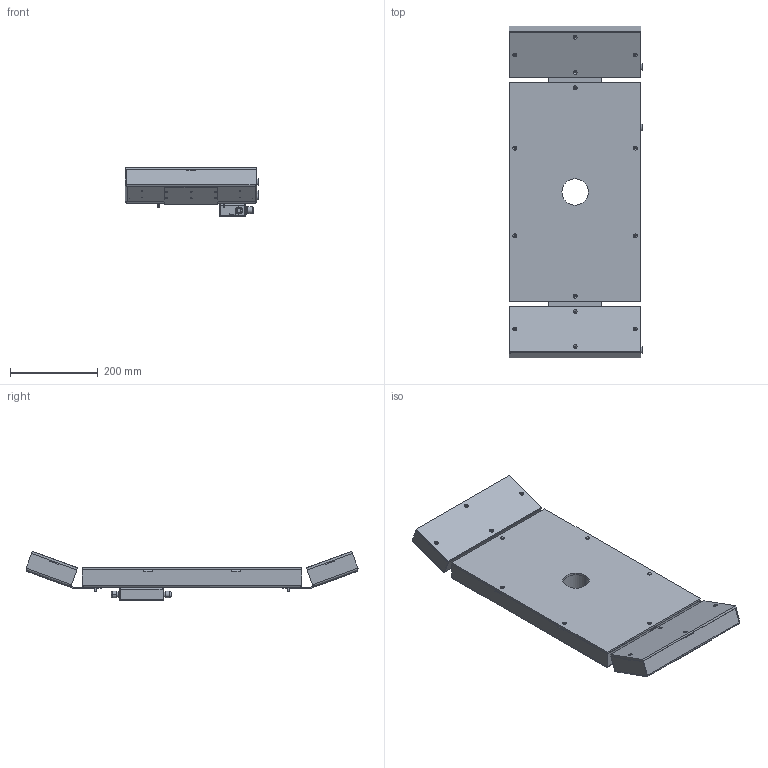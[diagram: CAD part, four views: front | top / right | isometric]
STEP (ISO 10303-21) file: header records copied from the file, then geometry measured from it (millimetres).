
FILE_DESCRIPTION (( 'STEP AP214' ), '1' );
FILE_NAME ('GM000587 IR Toplight 650_800.STEP', '2022-01-24T14:54:06', ( '' ), ( '' ), 'SwSTEP 2.0', 'SolidWorks 2020', '' );
FILE_SCHEMA (( 'AUTOMOTIVE_DESIGN' ));
Length unit declared in the file: millimetre
Products named in the file (15): CE000386; GM000587 IR Toplight 650_800; PD001799; PD002286; PD002287; PD002354; CM000966; PD002366; PD002570; CM000965; PD002365; PD002573; CE000436; CE000387; CM000968
Assembly tree (28 placements, depth 2):
  GM000587 IR Toplight 650_800
    PD001799
    PD002287
    PD002286
    CE000386
    CE000387  x2
    PD002354  x2
    PD002365  x2
    PD002366  x2
    CM000966  x3
    CM000965  x3
    CE000436  x2
    PD002573
    PD002570
    CM000968  x6
Bounding box: 304 x 756.4 x 112.34 mm (x, y, z)
Volume: 2119716.3 mm3; surface area: 1654272.5 mm2
Topology: 28 solids, 28 shells, 1644 faces, 4278 edges, 2736 vertices
Faces by surface type: plane 845, cylinder 715, bspline 32, cone 28, torus 24
Entity records: 34571 total; most frequent: CARTESIAN_POINT 7083, DIRECTION 5463, ORIENTED_EDGE 5290, EDGE_CURVE 2645, AXIS2_PLACEMENT_3D 1928, VERTEX_POINT 1684, VECTOR 1607, LINE 1607
